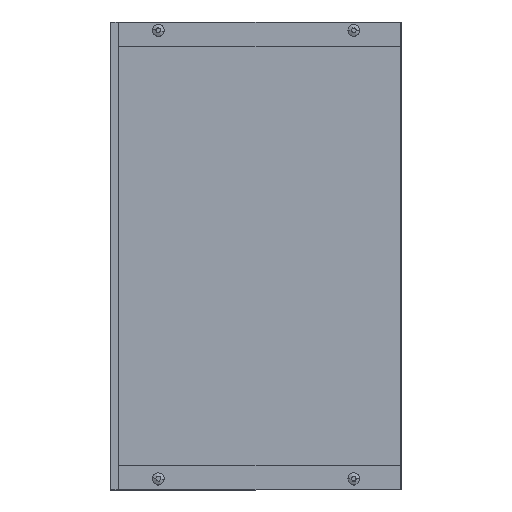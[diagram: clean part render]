
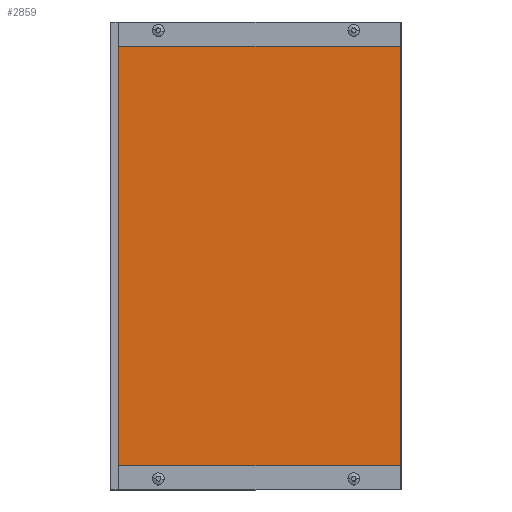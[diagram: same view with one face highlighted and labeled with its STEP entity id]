
A CAD part, front view. The second image highlights one B-rep face of the part: STEP entity #2859.
In plain terms, the highlighted planar face has unit normal (0, -1, 0).
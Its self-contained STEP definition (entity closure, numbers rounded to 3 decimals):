
#86 = VERTEX_POINT ( 'NONE', #2430 ) ;
#195 = CARTESIAN_POINT ( 'NONE',  ( -8., 61.1, 25. ) ) ;
#260 = ORIENTED_EDGE ( 'NONE', *, *, #2836, .T. ) ;
#349 = VECTOR ( 'NONE', #764, 1000. ) ;
#380 = EDGE_LOOP ( 'NONE', ( #260, #2118, #1770, #1037 ) ) ;
#435 = LINE ( 'NONE', #1987, #2621 ) ;
#539 = VERTEX_POINT ( 'NONE', #1472 ) ;
#585 = CARTESIAN_POINT ( 'NONE',  ( 288.6, 61.1, 454. ) ) ;
#701 = LINE ( 'NONE', #195, #349 ) ;
#746 = CARTESIAN_POINT ( 'NONE',  ( -8., 61.1, 479. ) ) ;
#764 = DIRECTION ( 'NONE',  ( -1., 0., 0. ) ) ;
#843 = CARTESIAN_POINT ( 'NONE',  ( 288.6, 61.1, 479. ) ) ;
#1000 = FACE_OUTER_BOUND ( 'NONE', #380, .T. ) ;
#1037 = ORIENTED_EDGE ( 'NONE', *, *, #3148, .T. ) ;
#1078 = LINE ( 'NONE', #843, #2190 ) ;
#1109 = DIRECTION ( 'NONE',  ( 0., 0., 1. ) ) ;
#1110 = DIRECTION ( 'NONE',  ( 0., 0., -1. ) ) ;
#1196 = AXIS2_PLACEMENT_3D ( 'NONE', #746, #1741, #2755 ) ;
#1472 = CARTESIAN_POINT ( 'NONE',  ( -6.6, 61.1, 25. ) ) ;
#1560 = CARTESIAN_POINT ( 'NONE',  ( -6.6, 61.1, 479. ) ) ;
#1655 = CARTESIAN_POINT ( 'NONE',  ( 288.6, 61.1, 25. ) ) ;
#1741 = DIRECTION ( 'NONE',  ( 0., 1., 0. ) ) ;
#1770 = ORIENTED_EDGE ( 'NONE', *, *, #2810, .F. ) ;
#1812 = EDGE_CURVE ( 'NONE', #86, #539, #2049, .T. ) ;
#1930 = VERTEX_POINT ( 'NONE', #1655 ) ;
#1987 = CARTESIAN_POINT ( 'NONE',  ( 0., 61.1, 454. ) ) ;
#2049 = LINE ( 'NONE', #1560, #3071 ) ;
#2118 = ORIENTED_EDGE ( 'NONE', *, *, #1812, .T. ) ;
#2190 = VECTOR ( 'NONE', #1109, 1000. ) ;
#2430 = CARTESIAN_POINT ( 'NONE',  ( -6.6, 61.1, 454. ) ) ;
#2621 = VECTOR ( 'NONE', #3001, 1000. ) ;
#2723 = PLANE ( 'NONE',  #1196 ) ;
#2755 = DIRECTION ( 'NONE',  ( 0., 0., 1. ) ) ;
#2810 = EDGE_CURVE ( 'NONE', #1930, #539, #701, .T. ) ;
#2836 = EDGE_CURVE ( 'NONE', #3171, #86, #435, .T. ) ;
#2859 = ADVANCED_FACE ( 'NONE', ( #1000 ), #2723, .F. ) ;
#3001 = DIRECTION ( 'NONE',  ( -1., 0., 0. ) ) ;
#3071 = VECTOR ( 'NONE', #1110, 1000. ) ;
#3148 = EDGE_CURVE ( 'NONE', #1930, #3171, #1078, .T. ) ;
#3171 = VERTEX_POINT ( 'NONE', #585 ) ;
